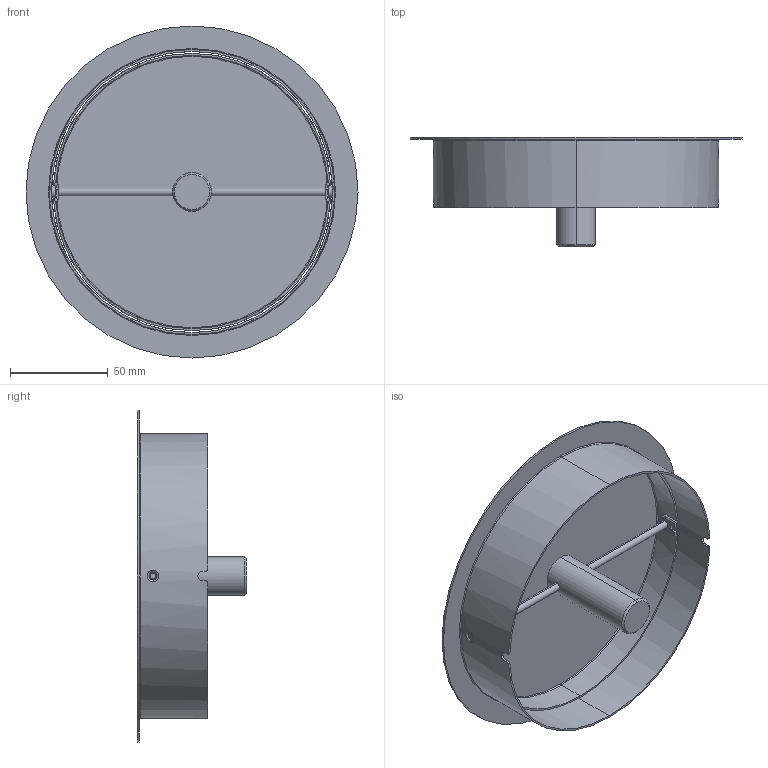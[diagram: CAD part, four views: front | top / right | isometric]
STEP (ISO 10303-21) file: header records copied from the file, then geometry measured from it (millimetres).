
FILE_DESCRIPTION (( 'STEP AP203' ), '1' );
FILE_NAME ('SC210-06156_AD-DH015_屑入投入口_0.step', '2013-07-11T08:45:15', ( ' ' ), ( '' ), 'SwSTEP 2.0', 'SolidWorks 2011', '' );
FILE_SCHEMA (( 'CONFIG_CONTROL_DESIGN' ));
Length unit declared in the file: millimetre
Products named in the file (5): SC210-06156_AD-DH015_屑入投入口_0; SC210-06155_AD-DH015_軸; SC210-06154_AD-DH015_ウェイト; SC210-06153_AD-DH015_フタ; SC210-06152_AD-DH015_口金
Assembly tree (4 placements, depth 2):
  SC210-06156_AD-DH015_屑入投入口_0
    SC210-06154_AD-DH015_ウェイト
    SC210-06153_AD-DH015_フタ
    SC210-06155_AD-DH015_軸
    SC210-06152_AD-DH015_口金
Bounding box: 170 x 56 x 170 mm (x, y, z)
Volume: 62812.7 mm3; surface area: 95596.4 mm2
Topology: 4 solids, 4 shells, 96 faces, 248 edges, 162 vertices
Faces by surface type: cylinder 38, plane 28, bspline 16, torus 8, cone 6
Entity records: 6204 total; most frequent: CARTESIAN_POINT 3394, ORIENTED_EDGE 496, DIRECTION 464, EDGE_CURVE 248, AXIS2_PLACEMENT_3D 187, VERTEX_POINT 162, EDGE_LOOP 110, CIRCLE 100
